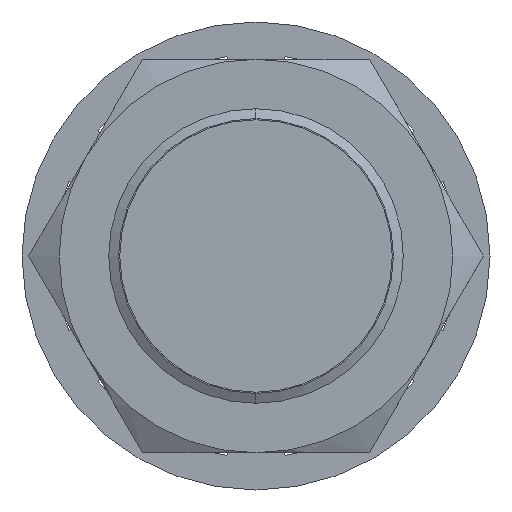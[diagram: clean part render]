
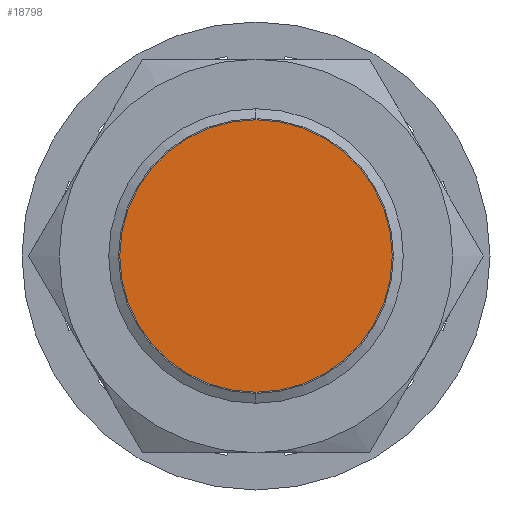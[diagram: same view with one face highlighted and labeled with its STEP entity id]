
A CAD part, left-side view. The second image highlights one B-rep face of the part: STEP entity #18798.
In plain terms, the highlighted planar face has unit normal (-1, 0, 0).
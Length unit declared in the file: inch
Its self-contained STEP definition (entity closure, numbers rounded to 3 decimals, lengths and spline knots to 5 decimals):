
#145 = VERTEX_POINT ( 'NONE', #13738 ) ;
#435 = EDGE_CURVE ( 'NONE', #10876, #145, #13883, .T. ) ;
#462 = ORIENTED_EDGE ( 'NONE', *, *, #435, .F. ) ;
#18036 = ORIENTED_EDGE ( 'NONE', *, *, #11035, .F. ) ;
#1738 = CARTESIAN_POINT ( 'NONE',  ( -0.47244, 0., -0.3275 ) ) ;
#1876 = CIRCLE ( 'NONE', #1877, 0.3275 ) ;
#1877 = AXIS2_PLACEMENT_3D ( 'NONE', #1885, #1886, #1887 ) ;
#1885 = CARTESIAN_POINT ( 'NONE',  ( -0.47244, 0., 0. ) ) ;
#1886 = DIRECTION ( 'NONE',  ( 1., 0., 0. ) ) ;
#1887 = DIRECTION ( 'NONE',  ( 0., 0., 1. ) ) ;
#18798 = ADVANCED_FACE ( 'NONE', ( #9671 ), #9676, .F. ) ;
#9671 = FACE_OUTER_BOUND ( 'NONE', #10786, .T. ) ;
#9676 = PLANE ( 'NONE',  #9677 ) ;
#9677 = AXIS2_PLACEMENT_3D ( 'NONE', #9678, #9679, #9680 ) ;
#9678 = CARTESIAN_POINT ( 'NONE',  ( -0.47244, 0., 0. ) ) ;
#9679 = DIRECTION ( 'NONE',  ( 1., 0., 0. ) ) ;
#9680 = DIRECTION ( 'NONE',  ( 0., 0., -1. ) ) ;
#10786 = EDGE_LOOP ( 'NONE', ( #18036, #462 ) ) ;
#10876 = VERTEX_POINT ( 'NONE', #1738 ) ;
#11035 = EDGE_CURVE ( 'NONE', #145, #10876, #1876, .T. ) ;
#13738 = CARTESIAN_POINT ( 'NONE',  ( -0.47244, 0., 0.3275 ) ) ;
#13883 = CIRCLE ( 'NONE', #13884, 0.3275 ) ;
#13884 = AXIS2_PLACEMENT_3D ( 'NONE', #13885, #13889, #13890 ) ;
#13885 = CARTESIAN_POINT ( 'NONE',  ( -0.47244, 0., 0. ) ) ;
#13889 = DIRECTION ( 'NONE',  ( 1., 0., 0. ) ) ;
#13890 = DIRECTION ( 'NONE',  ( 0., 0., 1. ) ) ;
